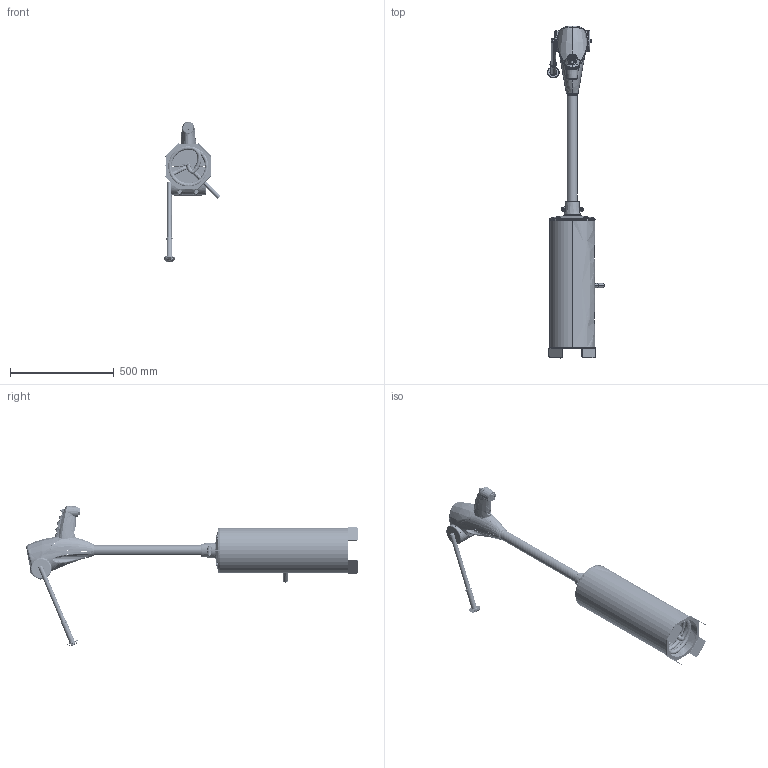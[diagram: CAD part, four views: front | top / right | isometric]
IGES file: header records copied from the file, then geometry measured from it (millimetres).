
Start section: SolidWorks IGES file using analytic representation for surfaces
Global section: file name: C:\D025.WAT.000 - Water Pump\11. Modele 3D dla klientów\570.201.010.xxx - Pump with Anchor.IGS; native system: SolidWorks 2018; preprocessor: SolidWorks 2018; author: user26; date: 210114.121133; units: millimetre
Bounding box: 274.99 x 1602.72 x 678.24 mm (x, y, z)
Surface area: 1965179.8 mm2 (no closed solid volume)
Topology: 0 solids, 0 shells, 3443 faces, 29574 edges, 29244 vertices
Faces by surface type: bspline 1848, revolution 1595
